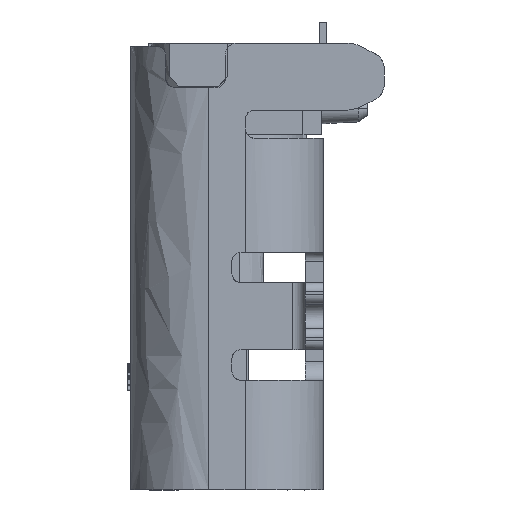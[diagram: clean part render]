
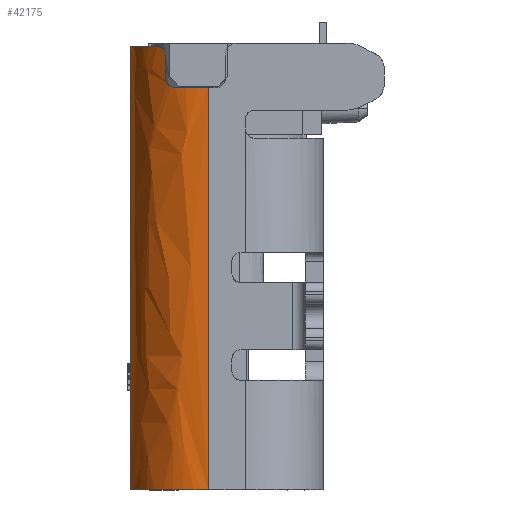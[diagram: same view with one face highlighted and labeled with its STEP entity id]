
A CAD part, left-side view. The second image highlights one B-rep face of the part: STEP entity #42175.
In plain terms, the highlighted free-form (B-spline) face has degree [3, 1] with [4, 2] control points.
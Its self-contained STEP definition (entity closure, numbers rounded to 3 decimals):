
#385 =( BOUNDED_CURVE ( )  B_SPLINE_CURVE ( 1, ( #8694, #27362 ),
 .UNSPECIFIED., .F., .F. ) 
 B_SPLINE_CURVE_WITH_KNOTS ( ( 2, 2 ),
 ( 0., 1. ),
 .UNSPECIFIED. ) 
 CURVE ( )  GEOMETRIC_REPRESENTATION_ITEM ( )  RATIONAL_B_SPLINE_CURVE ( ( 0.862, 0.862 ) ) 
 REPRESENTATION_ITEM ( '' )  );
#826 = CARTESIAN_POINT ( 'NONE',  ( -63.94, 1.58, -101.61 ) ) ;
#1249 = CARTESIAN_POINT ( 'NONE',  ( -64.47, 0.3, -94.283 ) ) ;
#1267 = EDGE_LOOP ( 'NONE', ( #31289, #38946, #41739, #15335, #47734, #8282, #45300, #12840 ) ) ;
#1328 = CARTESIAN_POINT ( 'NONE',  ( -64.297, 0.942, -94.257 ) ) ;
#2262 = CARTESIAN_POINT ( 'NONE',  ( -64.343, 0.855, -94.283 ) ) ;
#3705 = CARTESIAN_POINT ( 'NONE',  ( -64.47, 0.3, -100.883 ) ) ;
#4154 = CARTESIAN_POINT ( 'NONE',  ( -63.19, 1.58, -93.608 ) ) ;
#5132 = CARTESIAN_POINT ( 'NONE',  ( -63.94, 1.58, -100.883 ) ) ;
#5692 = CARTESIAN_POINT ( 'NONE',  ( -64.258, 1.005, -94.176 ) ) ;
#5984 = CARTESIAN_POINT ( 'NONE',  ( -64.243, 1.028, -93.677 ) ) ;
#6149 =( BOUNDED_CURVE ( )  B_SPLINE_CURVE ( 3, ( #14614, #5132, #27215, #8789 ),
 .UNSPECIFIED., .F., .F. ) 
 B_SPLINE_CURVE_WITH_KNOTS ( ( 4, 4 ),
 ( 0., 1. ),
 .UNSPECIFIED. ) 
 CURVE ( )  GEOMETRIC_REPRESENTATION_ITEM ( )  RATIONAL_B_SPLINE_CURVE ( ( 1., 0.805, 0.805, 1. ) ) 
 REPRESENTATION_ITEM ( '' )  );
#7813 = EDGE_CURVE ( 'NONE', #29247, #46960, #19000, .T. ) ;
#7814 = EDGE_CURVE ( 'NONE', #44451, #29550, #25972, .T. ) ;
#8282 = ORIENTED_EDGE ( 'NONE', *, *, #13926, .T. ) ;
#8694 = CARTESIAN_POINT ( 'NONE',  ( -64.258, 1.005, -94.133 ) ) ;
#8789 = CARTESIAN_POINT ( 'NONE',  ( -64.47, 0.3, -100.883 ) ) ;
#9116 = CARTESIAN_POINT ( 'NONE',  ( -63.19, 1.58, -93.608 ) ) ;
#12840 = ORIENTED_EDGE ( 'NONE', *, *, #40999, .F. ) ;
#13068 = CARTESIAN_POINT ( 'NONE',  ( -64.47, 0.3, -94.283 ) ) ;
#13738 = CARTESIAN_POINT ( 'NONE',  ( -64.228, 1.049, -93.651 ) ) ;
#13926 = EDGE_CURVE ( 'NONE', #32746, #31564, #385, .T. ) ;
#14614 = CARTESIAN_POINT ( 'NONE',  ( -63.19, 1.58, -100.883 ) ) ;
#15335 = ORIENTED_EDGE ( 'NONE', *, *, #17849, .T. ) ;
#15618 = CARTESIAN_POINT ( 'NONE',  ( -63.94, 1.58, -92.88 ) ) ;
#16862 = CARTESIAN_POINT ( 'NONE',  ( -64.021, 1.29, -93.608 ) ) ;
#17290 = CARTESIAN_POINT ( 'NONE',  ( -64.47, 0.3, -92.88 ) ) ;
#17849 = EDGE_CURVE ( 'NONE', #29550, #21938, #20936, .T. ) ;
#19000 = B_SPLINE_CURVE_WITH_KNOTS ( 'NONE', 1,
 ( #19682, #34451 ),
 .UNSPECIFIED., .F., .F.,
 ( 2, 2 ),
 ( 0., 1. ),
 .UNSPECIFIED. ) ;
#19262 = CARTESIAN_POINT ( 'NONE',  ( -63.19, 1.58, -92.88 ) ) ;
#19682 = CARTESIAN_POINT ( 'NONE',  ( -63.19, 1.58, -100.883 ) ) ;
#20445 = CARTESIAN_POINT ( 'NONE',  ( -64.47, 0.3, -101.61 ) ) ;
#20486 =( BOUNDED_SURFACE ( )  B_SPLINE_SURFACE ( 3, 1, ( 
 ( #42474, #19262 ),
 ( #826, #15618 ),
 ( #30391, #45134 ),
 ( #20445, #17290 ) ),
 .UNSPECIFIED., .F., .F., .F. ) 
 B_SPLINE_SURFACE_WITH_KNOTS ( ( 4, 4 ),
 ( 2, 2 ),
 ( 0., 1. ),
 ( 0., 1. ),
 .UNSPECIFIED. ) 
 GEOMETRIC_REPRESENTATION_ITEM ( )  RATIONAL_B_SPLINE_SURFACE ( (
 ( 1., 1.),
 ( 0.805, 0.805),
 ( 0.805, 0.805),
 ( 1., 1.) ) ) 
 REPRESENTATION_ITEM ( '' )  SURFACE ( )  );
#20517 = CARTESIAN_POINT ( 'NONE',  ( -64.47, 0.489, -94.283 ) ) ;
#20936 =( BOUNDED_CURVE ( )  B_SPLINE_CURVE ( 3, ( #31404, #20517, #42298, #24661 ),
 .UNSPECIFIED., .F., .F. ) 
 B_SPLINE_CURVE_WITH_KNOTS ( ( 4, 4 ),
 ( 0., 1. ),
 .UNSPECIFIED. ) 
 CURVE ( )  GEOMETRIC_REPRESENTATION_ITEM ( )  RATIONAL_B_SPLINE_CURVE ( ( 1., 0.942, 0.902, 0.878 ) ) 
 REPRESENTATION_ITEM ( '' )  );
#21938 = VERTEX_POINT ( 'NONE', #2262 ) ;
#22065 = EDGE_CURVE ( 'NONE', #29247, #44451, #6149, .T. ) ;
#23194 = CARTESIAN_POINT ( 'NONE',  ( -63.877, 1.395, -93.608 ) ) ;
#23423 = CARTESIAN_POINT ( 'NONE',  ( -64.306, 0.928, -94.266 ) ) ;
#23906 = CARTESIAN_POINT ( 'NONE',  ( -63.372, 1.58, -93.608 ) ) ;
#24181 = CARTESIAN_POINT ( 'NONE',  ( -64.143, 1.155, -93.608 ) ) ;
#24420 = CARTESIAN_POINT ( 'NONE',  ( -64.258, 1.005, -93.758 ) ) ;
#24661 = CARTESIAN_POINT ( 'NONE',  ( -64.343, 0.855, -94.283 ) ) ;
#25972 = B_SPLINE_CURVE_WITH_KNOTS ( 'NONE', 1,
 ( #30833, #1249 ),
 .UNSPECIFIED., .F., .F.,
 ( 2, 2 ),
 ( 0., 1. ),
 .UNSPECIFIED. ) ;
#26942 = VERTEX_POINT ( 'NONE', #39791 ) ;
#27215 = CARTESIAN_POINT ( 'NONE',  ( -64.47, 1.05, -100.883 ) ) ;
#27362 = CARTESIAN_POINT ( 'NONE',  ( -64.258, 1.005, -93.758 ) ) ;
#27757 = CARTESIAN_POINT ( 'NONE',  ( -64.343, 0.855, -94.283 ) ) ;
#27773 = CARTESIAN_POINT ( 'NONE',  ( -63.546, 1.543, -93.608 ) ) ;
#29247 = VERTEX_POINT ( 'NONE', #38547 ) ;
#29550 = VERTEX_POINT ( 'NONE', #13068 ) ;
#30391 = CARTESIAN_POINT ( 'NONE',  ( -64.47, 1.05, -101.61 ) ) ;
#30833 = CARTESIAN_POINT ( 'NONE',  ( -64.47, 0.3, -100.883 ) ) ;
#31289 = ORIENTED_EDGE ( 'NONE', *, *, #7813, .F. ) ;
#31340 = FACE_OUTER_BOUND ( 'NONE', #1267, .T. ) ;
#31369 = CARTESIAN_POINT ( 'NONE',  ( -64.324, 0.893, -94.28 ) ) ;
#31404 = CARTESIAN_POINT ( 'NONE',  ( -64.47, 0.3, -94.283 ) ) ;
#31564 = VERTEX_POINT ( 'NONE', #42609 ) ;
#32746 = VERTEX_POINT ( 'NONE', #44039 ) ;
#33478 = EDGE_CURVE ( 'NONE', #21938, #32746, #35805, .T. ) ;
#34451 = CARTESIAN_POINT ( 'NONE',  ( -63.19, 1.58, -93.608 ) ) ;
#35236 = CARTESIAN_POINT ( 'NONE',  ( -64.258, 1.005, -94.133 ) ) ;
#35805 = B_SPLINE_CURVE_WITH_KNOTS ( 'NONE', 3,
 ( #27757, #38867, #31369, #23423, #1328, #42508, #5692, #35236 ),
 .UNSPECIFIED., .F., .F.,
 ( 4, 2, 2, 4 ),
 ( 0., 0.25, 0.5, 1. ),
 .UNSPECIFIED. ) ;
#36048 = EDGE_CURVE ( 'NONE', #31564, #26942, #38920, .T. ) ;
#36231 = CARTESIAN_POINT ( 'NONE',  ( -64.202, 1.085, -93.62 ) ) ;
#38547 = CARTESIAN_POINT ( 'NONE',  ( -63.19, 1.58, -100.883 ) ) ;
#38649 = CARTESIAN_POINT ( 'NONE',  ( -64.143, 1.155, -93.608 ) ) ;
#38867 = CARTESIAN_POINT ( 'NONE',  ( -64.334, 0.875, -94.283 ) ) ;
#38920 = B_SPLINE_CURVE_WITH_KNOTS ( 'NONE', 3,
 ( #24420, #39383, #39153, #47356, #5984, #46412, #13738, #36231, #43259, #24181 ),
 .UNSPECIFIED., .F., .F.,
 ( 4, 2, 2, 2, 4 ),
 ( 0., 0.25, 0.375, 0.5, 1. ),
 .UNSPECIFIED. ) ;
#38946 = ORIENTED_EDGE ( 'NONE', *, *, #22065, .T. ) ;
#39153 = CARTESIAN_POINT ( 'NONE',  ( -64.256, 1.009, -93.714 ) ) ;
#39383 = CARTESIAN_POINT ( 'NONE',  ( -64.258, 1.005, -93.735 ) ) ;
#39791 = CARTESIAN_POINT ( 'NONE',  ( -64.143, 1.155, -93.608 ) ) ;
#40999 = EDGE_CURVE ( 'NONE', #46960, #26942, #41162, .T. ) ;
#41162 = B_SPLINE_CURVE_WITH_KNOTS ( 'NONE', 3,
 ( #9116, #23906, #27773, #23194, #16862, #38649 ),
 .UNSPECIFIED., .F., .F.,
 ( 4, 2, 4 ),
 ( 0., 0.5, 1. ),
 .UNSPECIFIED. ) ;
#41739 = ORIENTED_EDGE ( 'NONE', *, *, #7814, .T. ) ;
#42175 = ADVANCED_FACE ( 'NONE', ( #31340 ), #20486, .T. ) ;
#42298 = CARTESIAN_POINT ( 'NONE',  ( -64.429, 0.677, -94.283 ) ) ;
#42474 = CARTESIAN_POINT ( 'NONE',  ( -63.19, 1.58, -101.61 ) ) ;
#42508 = CARTESIAN_POINT ( 'NONE',  ( -64.269, 0.99, -94.212 ) ) ;
#42609 = CARTESIAN_POINT ( 'NONE',  ( -64.258, 1.005, -93.758 ) ) ;
#43259 = CARTESIAN_POINT ( 'NONE',  ( -64.176, 1.118, -93.608 ) ) ;
#44039 = CARTESIAN_POINT ( 'NONE',  ( -64.258, 1.005, -94.133 ) ) ;
#44451 = VERTEX_POINT ( 'NONE', #3705 ) ;
#45134 = CARTESIAN_POINT ( 'NONE',  ( -64.47, 1.05, -92.88 ) ) ;
#45300 = ORIENTED_EDGE ( 'NONE', *, *, #36048, .T. ) ;
#46412 = CARTESIAN_POINT ( 'NONE',  ( -64.234, 1.041, -93.66 ) ) ;
#46960 = VERTEX_POINT ( 'NONE', #4154 ) ;
#47356 = CARTESIAN_POINT ( 'NONE',  ( -64.247, 1.022, -93.685 ) ) ;
#47734 = ORIENTED_EDGE ( 'NONE', *, *, #33478, .T. ) ;
